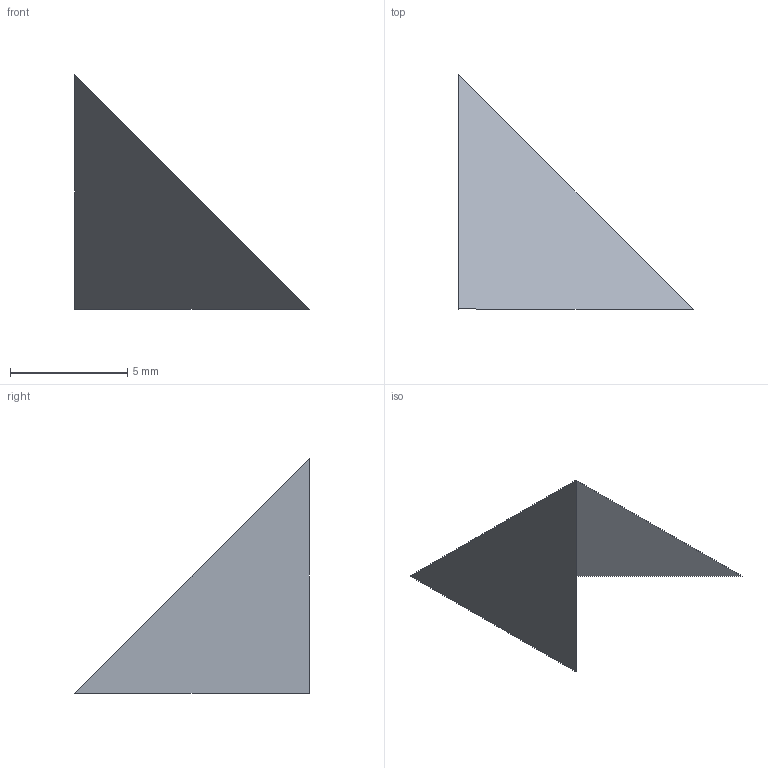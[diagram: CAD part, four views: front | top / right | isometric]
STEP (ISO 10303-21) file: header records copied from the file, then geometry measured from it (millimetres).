
FILE_DESCRIPTION(('BRL-CAD AP214 exact distinct-edge zero-area face fixture'),'2;1');
FILE_NAME('ap214_exact_distinct_edge_zero_area_face.stp','2026-08-04T00:00:00',('BRL-CAD'),('BRL-CAD'),'','','');
FILE_SCHEMA(('AUTOMOTIVE_DESIGN { 1 0 10303 214 3 1 1 1 }'));
Length unit declared in the file: millimetre
Products named in the file (1): distinct_edge_zero_area_face
Bounding box: 10 x 10 x 10 mm (x, y, z)
Volume: 166.7 mm3; surface area: 236.6 mm2
Topology: 1 solids, 2 shells, 5 faces, 8 edges, 4 vertices
Faces by surface type: plane 5
Entity records: 91 total; most frequent: ORIENTED_EDGE 14, DIRECTION 12, EDGE_CURVE 8, VECTOR 6, LINE 6, EDGE_LOOP 5, FACE_OUTER_BOUND 5, AXIS2_PLACEMENT_3D 5
